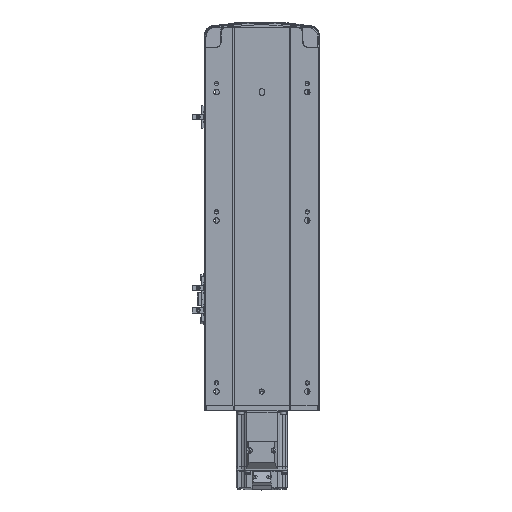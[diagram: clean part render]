
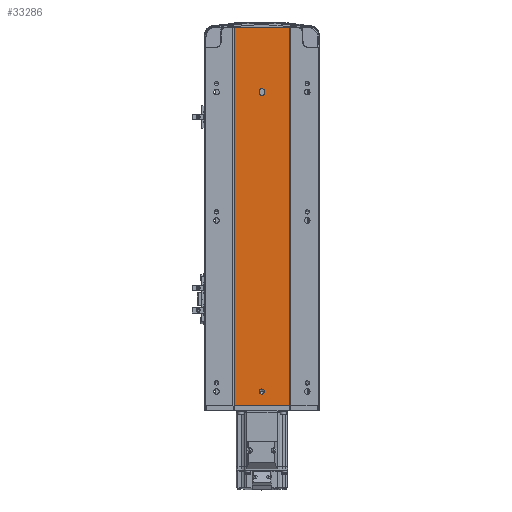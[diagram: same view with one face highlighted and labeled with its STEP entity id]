
A CAD part, top view. The second image highlights one B-rep face of the part: STEP entity #33286.
In plain terms, the highlighted planar face has unit normal (0, 0, 1).
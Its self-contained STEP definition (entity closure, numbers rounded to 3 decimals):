
#255 = DIRECTION ( 'NONE',  ( 0., 0., 1. ) ) ;
#698 = VERTEX_POINT ( 'NONE', #3601 ) ;
#1234 = CARTESIAN_POINT ( 'NONE',  ( 3., 367.5, 35.45 ) ) ;
#1492 = DIRECTION ( 'NONE',  ( 0., 0., 1. ) ) ;
#1779 = ORIENTED_EDGE ( 'NONE', *, *, #28826, .F. ) ;
#2470 = AXIS2_PLACEMENT_3D ( 'NONE', #2581, #35411, #6705 ) ;
#2514 = EDGE_CURVE ( 'NONE', #56768, #34361, #25395, .T. ) ;
#2581 = CARTESIAN_POINT ( 'NONE',  ( 0., 365.5, 35.45 ) ) ;
#2726 = FACE_BOUND ( 'NONE', #27339, .T. ) ;
#3249 = CARTESIAN_POINT ( 'NONE',  ( 3., 365.5, 35.45 ) ) ;
#3308 = ORIENTED_EDGE ( 'NONE', *, *, #47280, .T. ) ;
#3446 = LINE ( 'NONE', #50212, #29879 ) ;
#3601 = CARTESIAN_POINT ( 'NONE',  ( -3., 16.5, 35.45 ) ) ;
#3675 = EDGE_CURVE ( 'NONE', #21484, #11794, #54094, .T. ) ;
#4086 = DIRECTION ( 'NONE',  ( 0., -1., 0. ) ) ;
#4268 = DIRECTION ( 'NONE',  ( 1., 0., 0. ) ) ;
#5164 = VECTOR ( 'NONE', #14251, 1000. ) ;
#5236 = ORIENTED_EDGE ( 'NONE', *, *, #2514, .T. ) ;
#5724 = EDGE_CURVE ( 'NONE', #11794, #35968, #39862, .T. ) ;
#6273 = DIRECTION ( 'NONE',  ( 1., 0., 0. ) ) ;
#6522 = VERTEX_POINT ( 'NONE', #55631 ) ;
#6705 = DIRECTION ( 'NONE',  ( 1., 0., 0. ) ) ;
#6880 = CARTESIAN_POINT ( 'NONE',  ( 0., 367.5, 35.45 ) ) ;
#7156 = FACE_OUTER_BOUND ( 'NONE', #44481, .T. ) ;
#7777 = DIRECTION ( 'NONE',  ( 1., 0., 0. ) ) ;
#8628 = VECTOR ( 'NONE', #54541, 1000. ) ;
#8867 = EDGE_CURVE ( 'NONE', #39777, #21484, #13886, .T. ) ;
#9144 = CARTESIAN_POINT ( 'NONE',  ( -32.5, 442., 35.45 ) ) ;
#11345 = EDGE_CURVE ( 'NONE', #30096, #6522, #23899, .T. ) ;
#11492 = AXIS2_PLACEMENT_3D ( 'NONE', #11805, #39703, #21267 ) ;
#11794 = VERTEX_POINT ( 'NONE', #1234 ) ;
#11805 = CARTESIAN_POINT ( 'NONE',  ( -32.5, 442., 35.45 ) ) ;
#12484 = CARTESIAN_POINT ( 'NONE',  ( 3., 365.5, 35.45 ) ) ;
#13886 = CIRCLE ( 'NONE', #2470, 3. ) ;
#14251 = DIRECTION ( 'NONE',  ( 0., -1., 0. ) ) ;
#19359 = AXIS2_PLACEMENT_3D ( 'NONE', #6880, #49134, #6273 ) ;
#19696 = ORIENTED_EDGE ( 'NONE', *, *, #8867, .F. ) ;
#20322 = CIRCLE ( 'NONE', #58839, 3. ) ;
#21267 = DIRECTION ( 'NONE',  ( -1., 0., 0. ) ) ;
#21484 = VERTEX_POINT ( 'NONE', #3249 ) ;
#21836 = VECTOR ( 'NONE', #4268, 1000. ) ;
#22182 = VERTEX_POINT ( 'NONE', #27192 ) ;
#22359 = AXIS2_PLACEMENT_3D ( 'NONE', #29820, #1492, #43572 ) ;
#23899 = LINE ( 'NONE', #32200, #53949 ) ;
#25395 = LINE ( 'NONE', #9144, #5164 ) ;
#25465 = LINE ( 'NONE', #60700, #21836 ) ;
#25747 = PLANE ( 'NONE',  #11492 ) ;
#26951 = CARTESIAN_POINT ( 'NONE',  ( 32.5, 442., 35.45 ) ) ;
#27192 = CARTESIAN_POINT ( 'NONE',  ( 3., 16.5, 35.45 ) ) ;
#27339 = EDGE_LOOP ( 'NONE', ( #50216, #44235 ) ) ;
#27413 = CIRCLE ( 'NONE', #22359, 3. ) ;
#28006 = CARTESIAN_POINT ( 'NONE',  ( -3., 367.5, 35.45 ) ) ;
#28826 = EDGE_CURVE ( 'NONE', #35968, #39777, #42768, .T. ) ;
#29820 = CARTESIAN_POINT ( 'NONE',  ( 0., 16.5, 35.45 ) ) ;
#29879 = VECTOR ( 'NONE', #7777, 1000. ) ;
#30096 = VERTEX_POINT ( 'NONE', #26951 ) ;
#31723 = CARTESIAN_POINT ( 'NONE',  ( -3., 365.5, 35.45 ) ) ;
#32138 = DIRECTION ( 'NONE',  ( 0., -1., 0. ) ) ;
#32200 = CARTESIAN_POINT ( 'NONE',  ( 32.5, 442., 35.45 ) ) ;
#33286 = ADVANCED_FACE ( 'NONE', ( #2726, #56333, #7156 ), #25747, .F. ) ;
#33518 = CARTESIAN_POINT ( 'NONE',  ( 0., 16.5, 35.45 ) ) ;
#33950 = VECTOR ( 'NONE', #32138, 1000. ) ;
#34361 = VERTEX_POINT ( 'NONE', #41400 ) ;
#35411 = DIRECTION ( 'NONE',  ( 0., 0., 1. ) ) ;
#35968 = VERTEX_POINT ( 'NONE', #28006 ) ;
#36531 = CARTESIAN_POINT ( 'NONE',  ( -32.5, 442., 35.45 ) ) ;
#39703 = DIRECTION ( 'NONE',  ( 0., 0., -1. ) ) ;
#39777 = VERTEX_POINT ( 'NONE', #42944 ) ;
#39862 = CIRCLE ( 'NONE', #19359, 3. ) ;
#41400 = CARTESIAN_POINT ( 'NONE',  ( -32.5, 0., 35.45 ) ) ;
#42768 = LINE ( 'NONE', #31723, #33950 ) ;
#42944 = CARTESIAN_POINT ( 'NONE',  ( -3., 365.5, 35.45 ) ) ;
#43332 = EDGE_CURVE ( 'NONE', #22182, #698, #20322, .T. ) ;
#43385 = ORIENTED_EDGE ( 'NONE', *, *, #5724, .F. ) ;
#43572 = DIRECTION ( 'NONE',  ( 1., 0., 0. ) ) ;
#44235 = ORIENTED_EDGE ( 'NONE', *, *, #45690, .F. ) ;
#44481 = EDGE_LOOP ( 'NONE', ( #3308, #53375, #53845, #5236 ) ) ;
#44506 = EDGE_LOOP ( 'NONE', ( #51580, #19696, #1779, #43385 ) ) ;
#45690 = EDGE_CURVE ( 'NONE', #698, #22182, #27413, .T. ) ;
#47280 = EDGE_CURVE ( 'NONE', #34361, #6522, #3446, .T. ) ;
#47505 = EDGE_CURVE ( 'NONE', #56768, #30096, #25465, .T. ) ;
#49134 = DIRECTION ( 'NONE',  ( 0., 0., 1. ) ) ;
#50212 = CARTESIAN_POINT ( 'NONE',  ( -32.5, 0., 35.45 ) ) ;
#50216 = ORIENTED_EDGE ( 'NONE', *, *, #43332, .F. ) ;
#51580 = ORIENTED_EDGE ( 'NONE', *, *, #3675, .F. ) ;
#52591 = DIRECTION ( 'NONE',  ( 1., 0., 0. ) ) ;
#53375 = ORIENTED_EDGE ( 'NONE', *, *, #11345, .F. ) ;
#53845 = ORIENTED_EDGE ( 'NONE', *, *, #47505, .F. ) ;
#53949 = VECTOR ( 'NONE', #4086, 1000. ) ;
#54094 = LINE ( 'NONE', #12484, #8628 ) ;
#54541 = DIRECTION ( 'NONE',  ( 0., 1., 0. ) ) ;
#55631 = CARTESIAN_POINT ( 'NONE',  ( 32.5, 0., 35.45 ) ) ;
#56333 = FACE_BOUND ( 'NONE', #44506, .T. ) ;
#56768 = VERTEX_POINT ( 'NONE', #36531 ) ;
#58839 = AXIS2_PLACEMENT_3D ( 'NONE', #33518, #255, #52591 ) ;
#60700 = CARTESIAN_POINT ( 'NONE',  ( -32.5, 442., 35.45 ) ) ;
